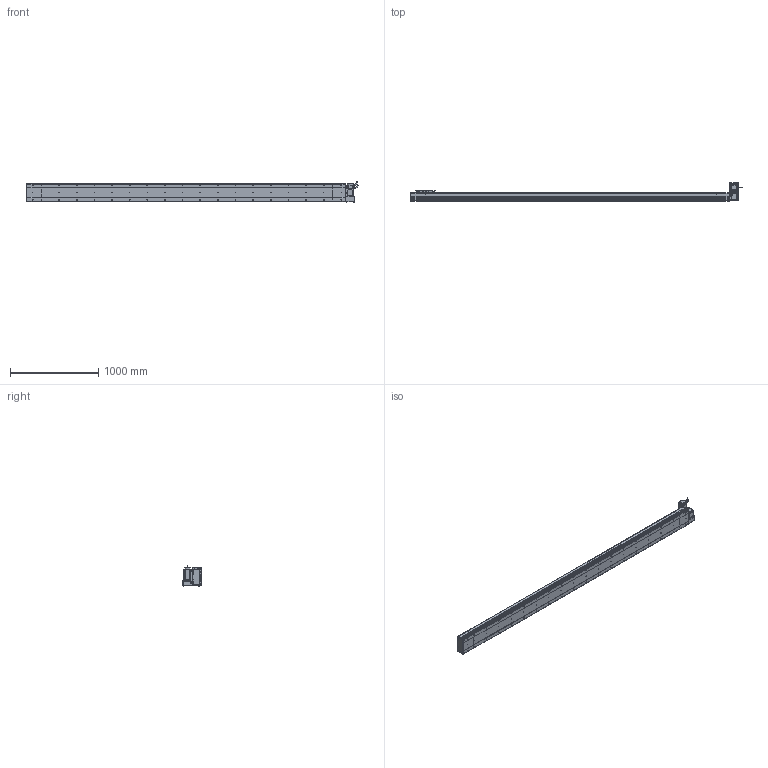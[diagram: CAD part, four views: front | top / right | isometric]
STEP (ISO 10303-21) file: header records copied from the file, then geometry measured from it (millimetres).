
FILE_DESCRIPTION (( 'STEP AP214' ), '1' );
FILE_NAME ('D20 CBH RT S3300.STEP', '2010-06-30T10:50:02', ( 'Conseil Régional Haute-Normandie' ), ( 'Conseil Régional Haute-Normandie' ), 'SwSTEP 2.0', 'SolidWorks 2010', '' );
FILE_SCHEMA (( 'AUTOMOTIVE_DESIGN' ));
Length unit declared in the file: millimetre
Products named in the file (31): codeur 90BLDC125-640; corps 90BLDC125A-640; Conecteur_Default; Conecteur2_Default; vis M5 L15_Default; vis M5 L47_Default; Rondelle Cache D20 RT_Default; Corp S3300_Default; Chariot D20_Default; Support Chariot D20_Default; Glissiere_Default; vis M5 L30_Default; Corp D20 S3300_Default; ecrou_Default; Couvercle S3300_Default; Tail D20+100_Default; Head RT_Default; Corp Tail D20 RT_Default; Couvercle RT_Default; Plaque de Bout Head D20 RT_Default; Plaque De Serrage D20 RT_Default; Support moteur RT_Default; Moteur motionking 90BLDC125A-640; avant 90BLDC125A-640; Corp Tail D20+100_Default; Couvercle_Default; Plaque de Bout Tail D20_Default; Plaque De Serrage D20_Default; D20 CBH RT S3300; Cache Support Moteur RT_Default
Assembly tree (68 placements, depth 4):
  D20 CBH RT S3300
    Head RT_Default
      Support moteur RT_Default
      vis M5 L15_Default  x14
      Rondelle Cache D20 RT_Default  x3
      Plaque de Bout Head D20 RT_Default
      vis M5 L47_Default  x4
      vis M5 L30_Default  x4
      Cache Support Moteur RT_Default
      Moteur motionking 90BLDC125A-640
        Conecteur_Default
        Conecteur2_Default
        codeur 90BLDC125-640
        corps 90BLDC125A-640
        avant 90BLDC125A-640
      Couvercle RT_Default
      Plaque De Serrage D20 RT_Default
      ecrou_Default  x4
      Corp Tail D20 RT_Default
    Chariot D20_Default
      vis M5 L15_Default  x8
      Glissiere_Default
      Chariot D20_Default
      Support Chariot D20_Default
    Tail D20+100_Default
      Plaque de Bout Tail D20_Default
      vis M5 L15_Default  x6
      Corp Tail D20+100_Default
      Plaque De Serrage D20_Default
      Couvercle_Default
    Corp D20 S3300_Default
      Couvercle S3300_Default
      Corp S3300_Default
Bounding box: 3764.45 x 206.5 x 229.7 mm (x, y, z)
Volume: 25136580.8 mm3; surface area: 4818633.4 mm2
Topology: 105 solids, 105 shells, 3883 faces, 9642 edges, 6262 vertices
Faces by surface type: plane 2152, bspline 806, cylinder 754, torus 95, cone 72, sphere 4
Entity records: 161270 total; most frequent: CARTESIAN_POINT 82619, ORIENTED_EDGE 15552, DIRECTION 11974, EDGE_CURVE 7776, VERTEX_POINT 5146, VECTOR 4996, LINE 4996, AXIS2_PLACEMENT_3D 3489
